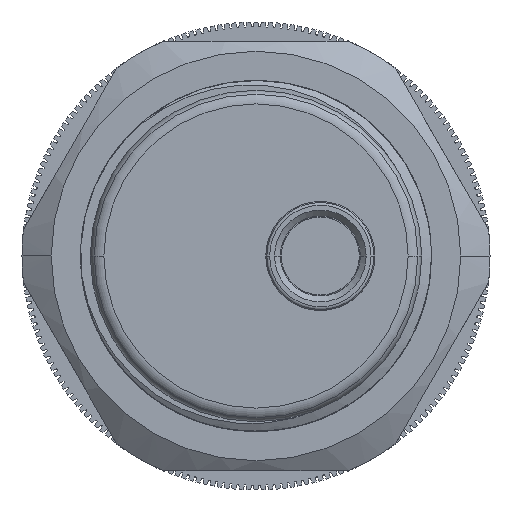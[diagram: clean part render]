
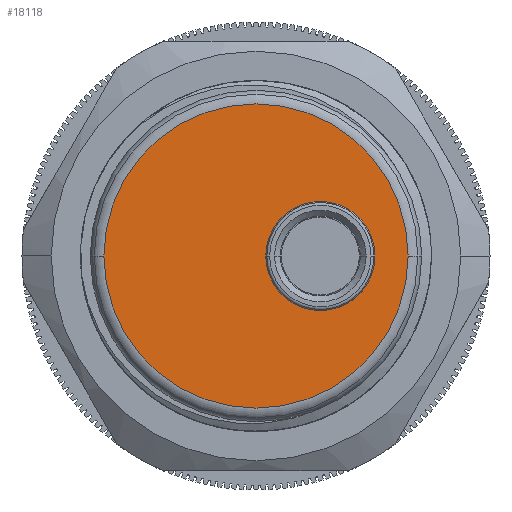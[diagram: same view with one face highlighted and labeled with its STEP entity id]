
A CAD part, left-side view. The second image highlights one B-rep face of the part: STEP entity #18118.
In plain terms, the highlighted planar face has unit normal (-1, 0, 0) as drawn and (0, 0, 1) by its records, which use the part's own axes.
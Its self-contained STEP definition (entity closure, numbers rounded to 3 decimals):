
#17386=CARTESIAN_POINT('',(-19.9,19.9,
2.));
#17387=DIRECTION('',(0.,0.,1.));
#17388=DIRECTION('',(1.,0.,0.));
#17389=AXIS2_PLACEMENT_3D('',#17386,#17387,#17388);
#17391=CARTESIAN_POINT('',(-19.9,19.9,
2.));
#17392=DIRECTION('',(0.,0.,1.));
#17393=DIRECTION('',(-1.,0.,0.));
#17394=AXIS2_PLACEMENT_3D('',#17391,#17392,#17393);
#17396=CARTESIAN_POINT('',(-16.6,19.9,
2.));
#17397=DIRECTION('',(0.,0.,-1.));
#17398=DIRECTION('',(1.,0.,0.));
#17399=AXIS2_PLACEMENT_3D('',#17396,#17397,#17398);
#17401=CARTESIAN_POINT('',(-16.6,19.9,
2.));
#17402=DIRECTION('',(0.,0.,-1.));
#17403=DIRECTION('',(-1.,0.,0.));
#17404=AXIS2_PLACEMENT_3D('',#17401,#17402,#17403);
#17512=CARTESIAN_POINT('',(-12.1,19.9,
2.));
#17514=VERTEX_POINT('',#17512);
#17518=CARTESIAN_POINT('',(-27.7,19.9,
2.));
#17519=VERTEX_POINT('',#17518);
#17568=CARTESIAN_POINT('',(-13.8,19.9,
2.));
#17569=VERTEX_POINT('',#17568);
#17570=CARTESIAN_POINT('',(-19.4,19.9,
2.));
#17571=VERTEX_POINT('',#17570);
#18102=CARTESIAN_POINT('',(-19.9,19.9,
2.));
#18103=DIRECTION('',(0.,0.,-1.));
#18104=DIRECTION('',(1.,0.,0.));
#18105=AXIS2_PLACEMENT_3D('',#18102,#18103,#18104);
#18106=PLANE('',#18105);
#18107=ORIENTED_EDGE('',*,*,#18085,.F.);
#18109=ORIENTED_EDGE('',*,*,#18108,.F.);
#18110=EDGE_LOOP('',(#18107,#18109));
#18111=FACE_OUTER_BOUND('',#18110,.F.);
#18113=ORIENTED_EDGE('',*,*,#18112,.F.);
#18115=ORIENTED_EDGE('',*,*,#18114,.F.);
#18116=EDGE_LOOP('',(#18113,#18115));
#18117=FACE_BOUND('',#18116,.F.);
#17390=CIRCLE('',#17389,7.8);
#17395=CIRCLE('',#17394,7.8);
#17400=CIRCLE('',#17399,2.8);
#17405=CIRCLE('',#17404,2.8);
#18085=EDGE_CURVE('',#17514,#17519,#17390,.T.);
#18108=EDGE_CURVE('',#17519,#17514,#17395,.T.);
#18112=EDGE_CURVE('',#17569,#17571,#17400,.T.);
#18114=EDGE_CURVE('',#17571,#17569,#17405,.T.);
#18118=ADVANCED_FACE('',(#18111,#18117),#18106,.F.);
